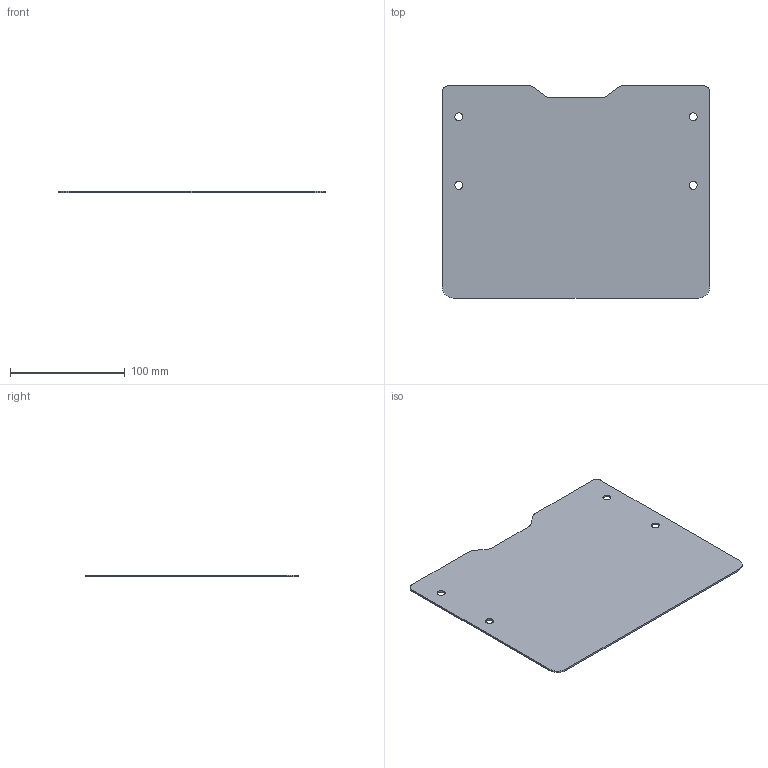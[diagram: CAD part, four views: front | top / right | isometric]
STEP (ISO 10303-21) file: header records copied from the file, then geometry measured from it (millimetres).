
FILE_DESCRIPTION (( 'STEP AP214' ), '1' );
FILE_NAME ('MONO_038-p103_02 (FLAT PATTERN).STEP', '2026-03-17T07:29:55', ( '' ), ( '' ), 'SwSTEP 2.0', 'SolidWorks 2024', '' );
FILE_SCHEMA (( 'AUTOMOTIVE_DESIGN' ));
Length unit declared in the file: millimetre
Products named in the file (1): MONO_038-p103_02 (FLAT PATTERN)
Bounding box: 232.8 x 184.76 x 1.6 mm (x, y, z)
Volume: 67471.5 mm3; surface area: 85805.6 mm2
Topology: 1 solids, 1 shells, 22 faces, 60 edges, 40 vertices
Faces by surface type: cylinder 12, plane 10
Full cylindrical faces by diameter (mm): 7 x4
Entity records: 727 total; most frequent: DIRECTION 126, CARTESIAN_POINT 119, ORIENTED_EDGE 112, EDGE_CURVE 56, AXIS2_PLACEMENT_3D 47, VERTEX_POINT 40, EDGE_LOOP 34, LINE 32
